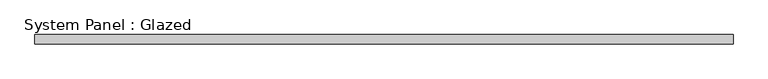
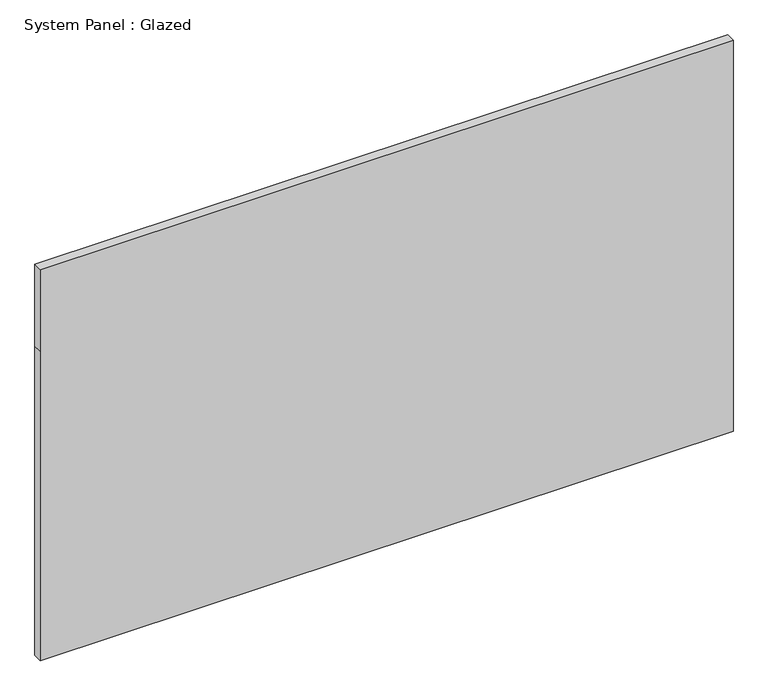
"""IFC4 building model written with IfcOpenShell, lengths in millimetres: plate geometry, System Panel : Glazed."""

from ifc_helpers import new_model, si_unit, frame, origin, place, context, project, spatial, polyline, outline, extrude, source, transform, mapped, element, save


def system_panel_glazed_d60e1f89(model_context):
    return source(origin(), model_context, "Body", "SweptSolid", [
        extrude(outline(polyline([(0.0, -968.375), (0.0, 968.375), (914.4, 968.375), (1155.7, 968.375), (1155.7, -968.375), (914.4, -968.375), (0.0, -968.375)])), frame((0.0, 19.05, 0.0), z_axis=(0.0, 1.0, 0.0), x_axis=(0.0, 0.0, 1.0)), (0.0, 0.0, 1.0), 25.4),
    ])


if __name__ == "__main__":
    model = new_model("IFC4")
    model_context = context("Model", 3, world=origin())
    ifc_project = project(units=[si_unit("LENGTHUNIT", "METRE", prefix="MILLI")], contexts=[model_context])
    site = spatial("IfcSite", under=ifc_project)
    building = spatial("IfcBuilding", under=site)
    placement = place(None, origin())
    system_panel_glazed_shape = system_panel_glazed_d60e1f89(model_context)
    element("IfcPlate", 1, ObjectType="System Panel : Glazed", at=placement, inside=building, context=model_context, shape_type="MappedRepresentation", body=[
        mapped(system_panel_glazed_shape, transform((0.0, 0.0, 0.0), x_axis=(1.0, 0.0, 0.0), y_axis=(0.0, 1.0, 0.0), z_axis=(0.0, 0.0, 1.0))),
    ])
    save(model, "model.ifc")
